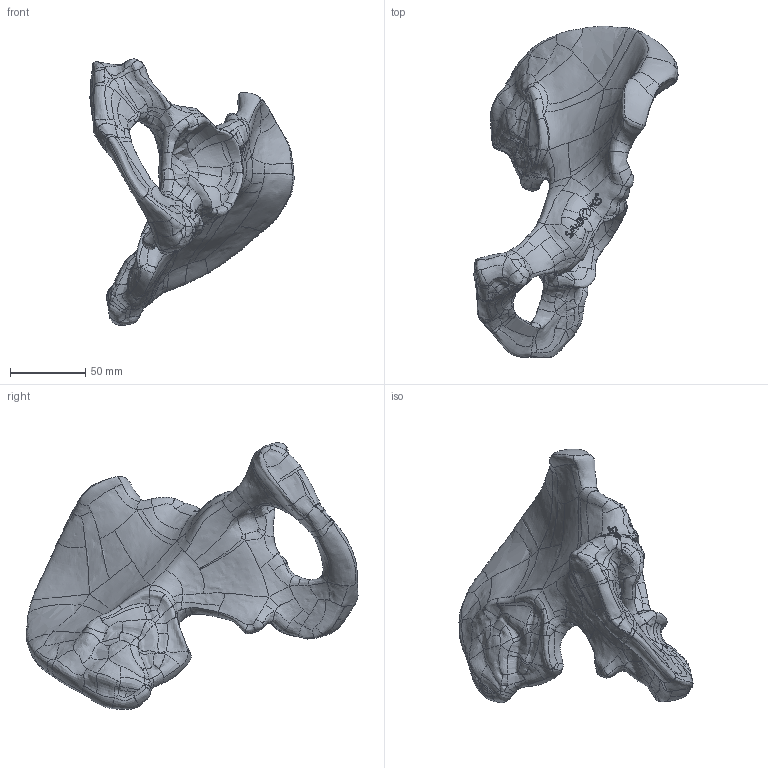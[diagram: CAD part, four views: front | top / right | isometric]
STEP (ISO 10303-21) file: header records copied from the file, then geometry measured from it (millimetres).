
FILE_DESCRIPTION (( 'STEP AP203' ), '1' );
FILE_NAME ('1294.STEP', '2025-06-05T18:16:26', ( '' ), ( '' ), 'SwSTEP 2.0', 'SolidWorks 2024', '' );
FILE_SCHEMA (( 'CONFIG_CONTROL_DESIGN' ));
Products named in the file (1): 1294
Bounding box: 136.03 x 221.27 x 177.96 mm (x, y, z)
Volume: 504377.8 mm3; surface area: 73470.7 mm2
Topology: 1 solids, 1 shells, 652 faces, 1674 edges, 1032 vertices
Faces by surface type: bspline 652
Entity records: 308472 total; most frequent: CARTESIAN_POINT 298032, ORIENTED_EDGE 3348, EDGE_CURVE 1674, B_SPLINE_CURVE_WITH_KNOTS 1674, VERTEX_POINT 1032, EDGE_LOOP 662, ADVANCED_FACE 652, B_SPLINE_SURFACE_WITH_KNOTS 652
